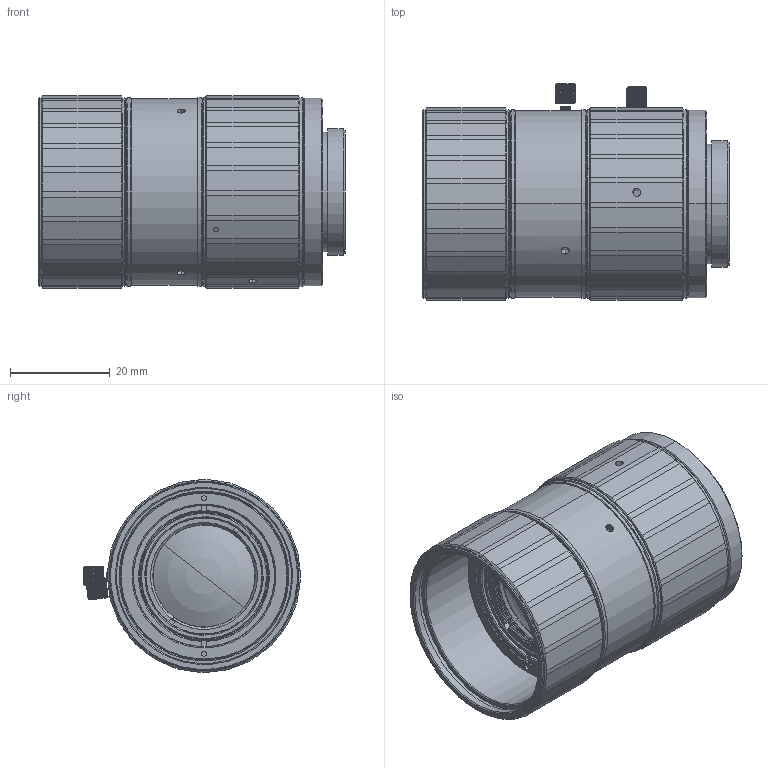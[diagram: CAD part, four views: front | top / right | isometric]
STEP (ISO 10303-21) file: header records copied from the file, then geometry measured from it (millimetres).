
FILE_DESCRIPTION((''),'2;1');
FILE_NAME('FA5040M25Q1_2_ASM','2025-02-25T13:36:48',('re_ay'),(''),'CREO PARAMETRIC BY PTC INC, 2023073','CREO PARAMETRIC BY PTC INC, 2023073','');
FILE_SCHEMA(('AUTOMOTIVE_DESIGN { 1 0 10303 214 1 1 1 1 }'));
Length unit declared in the file: metre
Products named in the file (25): FA5040M25Q1_2_1_1; FA5040M25Q1_2_2; FA5040M25Q1_2_3; FA5040M25Q1_2_4; FA5040M25Q1_2_5; FA5040M25Q1_2_6; FA5040M25Q1_2_7; FA5040M25Q1_2_8; FA5040M25Q1_2_9; FA5040M25Q1_2_10; FA5040M25Q1_2_11; FA5040M25Q1_2_12; FA5040M25Q1_2_13; FA5040M25Q1_2_14; FA5040M25Q1_2_15; FA5040M25Q1_2_16; FA5040M25Q1_2_17; FA5040M25Q1_2_18; FA5040M25Q1_2_19; FA5040M25Q1_2_20; FA5040M25Q1_2_21; FA5040M25Q1_2_22; FA5040M25Q1_2_23; FA5040M25Q1_2_1_ASM; FA5040M25Q1_2_ASM
Assembly tree (24 placements, depth 3):
  FA5040M25Q1_2_ASM
    FA5040M25Q1_2_1_ASM
      FA5040M25Q1_2_1_1
      FA5040M25Q1_2_2
      FA5040M25Q1_2_3
      FA5040M25Q1_2_4
      FA5040M25Q1_2_5
      FA5040M25Q1_2_6
      FA5040M25Q1_2_7
      FA5040M25Q1_2_8
      FA5040M25Q1_2_9
      FA5040M25Q1_2_10
      FA5040M25Q1_2_11
      FA5040M25Q1_2_12
      FA5040M25Q1_2_13
      FA5040M25Q1_2_14
      FA5040M25Q1_2_15
      FA5040M25Q1_2_16
      FA5040M25Q1_2_17
      FA5040M25Q1_2_18
      FA5040M25Q1_2_19
      FA5040M25Q1_2_20
      FA5040M25Q1_2_21
      FA5040M25Q1_2_22
      FA5040M25Q1_2_23
Bounding box: 61.27 x 43.4 x 38.6 mm (x, y, z)
Surface area: 14672.5 mm2 (no closed solid volume)
Topology: 0 solids, 23 shells, 666 faces, 2344 edges, 1624 vertices
Faces by surface type: plane 296, cylinder 234, cone 118, torus 12, sphere 4, bspline 2
Entity records: 39152 total; most frequent: CARTESIAN_POINT 14752, ORIENTED_EDGE 3931, DIRECTION 3750, EDGE_CURVE 2340, VERTEX_POINT 1624, AXIS2_PLACEMENT_3D 1517, B_SPLINE_CURVE_WITH_KNOTS 843, CIRCLE 781
